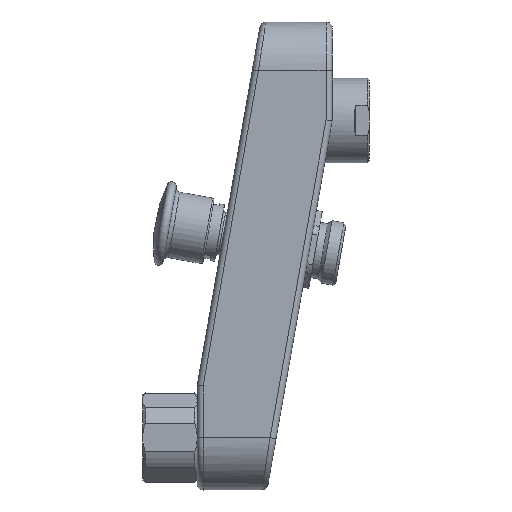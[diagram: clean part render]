
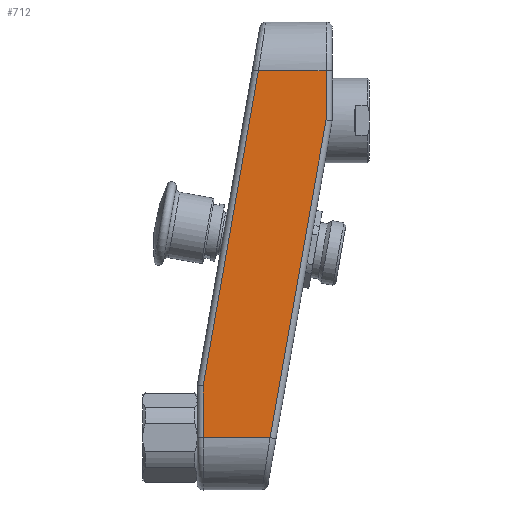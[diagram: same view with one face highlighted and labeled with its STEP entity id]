
A CAD part, left-side view. The second image highlights one B-rep face of the part: STEP entity #712.
In plain terms, the highlighted planar face has unit normal (-1, 0, 0.008).
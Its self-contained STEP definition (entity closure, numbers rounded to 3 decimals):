
#2 = AXIS2_PLACEMENT_3D ( 'NONE', #1317, #1306, #1304 ) ;
#48 = EDGE_CURVE ( 'NONE', #2576, #2266, #1387, .T. ) ;
#155 = CARTESIAN_POINT ( 'NONE',  ( -16.371, -61.992, 112.721 ) ) ;
#180 = CARTESIAN_POINT ( 'NONE',  ( -16.299, -60.662, 121.419 ) ) ;
#197 = CARTESIAN_POINT ( 'NONE',  ( -17.3, -20., 0.071 ) ) ;
#222 = DIRECTION ( 'NONE',  ( 0.008, -0.174, 0.985 ) ) ;
#238 = EDGE_CURVE ( 'NONE', #899, #2266, #1194, .T. ) ;
#240 = CARTESIAN_POINT ( 'NONE',  ( -17.3, -42.129, 0.071 ) ) ;
#277 = VERTEX_POINT ( 'NONE', #2371 ) ;
#407 = CARTESIAN_POINT ( 'NONE',  ( -16.299, -60.662, 121.419 ) ) ;
#425 = DIRECTION ( 'NONE',  ( 0.008, 0., 1. ) ) ;
#436 = CARTESIAN_POINT ( 'NONE',  ( -16.299, -38.259, 121.419 ) ) ;
#457 = EDGE_CURVE ( 'NONE', #277, #1789, #1009, .T. ) ;
#609 = CARTESIAN_POINT ( 'NONE',  ( -16.335, -37.498, 117.07 ) ) ;
#640 = DIRECTION ( 'NONE',  ( -0.008, 0.172, -0.985 ) ) ;
#712 = ADVANCED_FACE ( 'NONE', ( #2771 ), #1329, .T. ) ;
#886 = CARTESIAN_POINT ( 'NONE',  ( -17.3, -18., 0.071 ) ) ;
#899 = VERTEX_POINT ( 'NONE', #436 ) ;
#979 = VECTOR ( 'NONE', #2172, 1000. ) ;
#1009 = LINE ( 'NONE', #2178, #979 ) ;
#1038 = CARTESIAN_POINT ( 'NONE',  ( -16.433, -60.662, 105.176 ) ) ;
#1122 = VERTEX_POINT ( 'NONE', #240 ) ;
#1163 = VECTOR ( 'NONE', #2673, 1000. ) ;
#1194 = LINE ( 'NONE', #2446, #1163 ) ;
#1304 = DIRECTION ( 'NONE',  ( 0.008, 0., 1. ) ) ;
#1306 = DIRECTION ( 'NONE',  ( -1., 0., 0.008 ) ) ;
#1317 = CARTESIAN_POINT ( 'NONE',  ( -16.299, -12.662, 121.419 ) ) ;
#1329 = PLANE ( 'NONE',  #2 ) ;
#1385 = VECTOR ( 'NONE', #425, 1000. ) ;
#1387 = LINE ( 'NONE', #407, #1385 ) ;
#1568 = DIRECTION ( 'NONE',  ( 0., -1., 0. ) ) ;
#1789 = VERTEX_POINT ( 'NONE', #197 ) ;
#1863 = VECTOR ( 'NONE', #222, 1000. ) ;
#1866 = LINE ( 'NONE', #155, #1863 ) ;
#1909 = VECTOR ( 'NONE', #640, 1000. ) ;
#1944 = LINE ( 'NONE', #609, #1909 ) ;
#1998 = VECTOR ( 'NONE', #1568, 1000. ) ;
#2029 = LINE ( 'NONE', #886, #1998 ) ;
#2038 = EDGE_CURVE ( 'NONE', #1789, #1122, #2029, .T. ) ;
#2130 = EDGE_LOOP ( 'NONE', ( #2828, #2824, #2554, #2561, #2586, #2592 ) ) ;
#2172 = DIRECTION ( 'NONE',  ( -0.008, 0., -1. ) ) ;
#2178 = CARTESIAN_POINT ( 'NONE',  ( -16.299, -20., 121.419 ) ) ;
#2203 = EDGE_CURVE ( 'NONE', #899, #277, #1944, .T. ) ;
#2266 = VERTEX_POINT ( 'NONE', #180 ) ;
#2274 = EDGE_CURVE ( 'NONE', #1122, #2576, #1866, .T. ) ;
#2371 = CARTESIAN_POINT ( 'NONE',  ( -17.159, -20., 17.143 ) ) ;
#2446 = CARTESIAN_POINT ( 'NONE',  ( -16.299, -12.662, 121.419 ) ) ;
#2554 = ORIENTED_EDGE ( 'NONE', *, *, #48, .T. ) ;
#2561 = ORIENTED_EDGE ( 'NONE', *, *, #238, .F. ) ;
#2576 = VERTEX_POINT ( 'NONE', #1038 ) ;
#2586 = ORIENTED_EDGE ( 'NONE', *, *, #2203, .T. ) ;
#2592 = ORIENTED_EDGE ( 'NONE', *, *, #457, .T. ) ;
#2673 = DIRECTION ( 'NONE',  ( 0., -1., 0. ) ) ;
#2771 = FACE_OUTER_BOUND ( 'NONE', #2130, .T. ) ;
#2824 = ORIENTED_EDGE ( 'NONE', *, *, #2274, .T. ) ;
#2828 = ORIENTED_EDGE ( 'NONE', *, *, #2038, .T. ) ;
